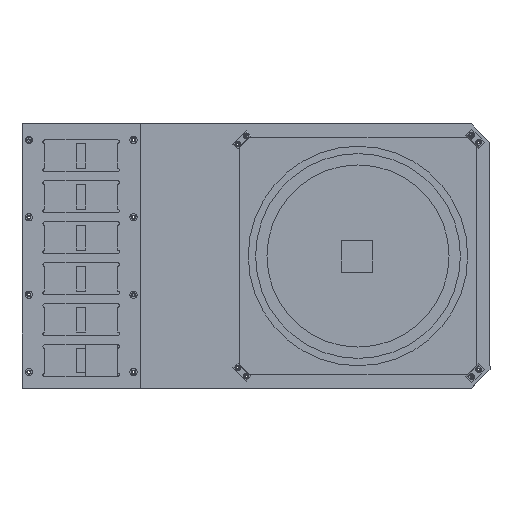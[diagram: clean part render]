
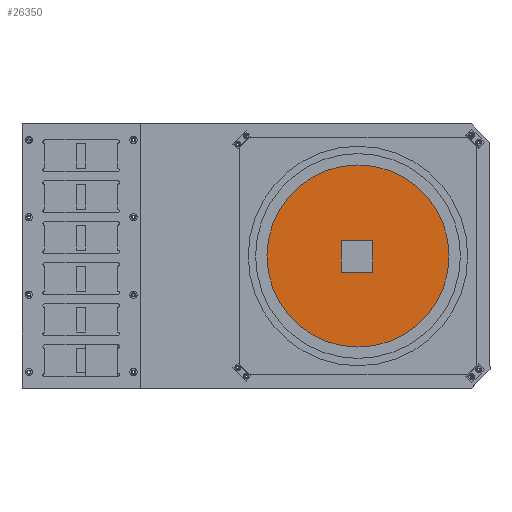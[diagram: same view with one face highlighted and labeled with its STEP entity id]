
A CAD part, top view. The second image highlights one B-rep face of the part: STEP entity #26350.
In plain terms, the highlighted planar face has unit normal (0, 0, 1).
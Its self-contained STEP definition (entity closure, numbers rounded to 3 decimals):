
#666 = ORIENTED_EDGE ( 'NONE', *, *, #22721, .F. ) ;
#668 = ORIENTED_EDGE ( 'NONE', *, *, #23356, .T. ) ;
#688 = CARTESIAN_POINT ( 'NONE',  ( 305.385, 173.561, 976.8 ) ) ;
#1020 = LINE ( 'NONE', #5673, #24374 ) ;
#1689 = CARTESIAN_POINT ( 'NONE',  ( 289.018, 255.625, 976.8 ) ) ;
#1853 = DIRECTION ( 'NONE',  ( 0., -1., 0. ) ) ;
#2101 = CARTESIAN_POINT ( 'NONE',  ( 305.385, 373.561, 976.8 ) ) ;
#2233 = EDGE_LOOP ( 'NONE', ( #12767, #666 ) ) ;
#2315 = CIRCLE ( 'NONE', #19268, 100. ) ;
#3492 = VERTEX_POINT ( 'NONE', #11764 ) ;
#3720 = DIRECTION ( 'NONE',  ( 0., -1., 0. ) ) ;
#4207 = PLANE ( 'NONE',  #26924 ) ;
#5447 = VERTEX_POINT ( 'NONE', #7216 ) ;
#5673 = CARTESIAN_POINT ( 'NONE',  ( 324.018, 292.375, 976.8 ) ) ;
#6439 = CARTESIAN_POINT ( 'NONE',  ( 288.143, 291.5, 976.8 ) ) ;
#7216 = CARTESIAN_POINT ( 'NONE',  ( 289.018, 291.5, 976.8 ) ) ;
#8642 = DIRECTION ( 'NONE',  ( 0., 0., -1. ) ) ;
#9291 = CARTESIAN_POINT ( 'NONE',  ( 305.385, 273.561, 976.8 ) ) ;
#10829 = EDGE_LOOP ( 'NONE', ( #24729, #668, #28076, #13346 ) ) ;
#11297 = VERTEX_POINT ( 'NONE', #688 ) ;
#11626 = DIRECTION ( 'NONE',  ( 0., -1., 0. ) ) ;
#11764 = CARTESIAN_POINT ( 'NONE',  ( 324.018, 291.5, 976.8 ) ) ;
#12456 = VECTOR ( 'NONE', #24600, 1000. ) ;
#12767 = ORIENTED_EDGE ( 'NONE', *, *, #13651, .F. ) ;
#13214 = CARTESIAN_POINT ( 'NONE',  ( 200.385, 168.561, 976.8 ) ) ;
#13346 = ORIENTED_EDGE ( 'NONE', *, *, #13502, .T. ) ;
#13366 = AXIS2_PLACEMENT_3D ( 'NONE', #9291, #25661, #11626 ) ;
#13502 = EDGE_CURVE ( 'NONE', #23074, #5447, #25635, .T. ) ;
#13651 = EDGE_CURVE ( 'NONE', #11297, #15259, #15026, .T. ) ;
#15011 = EDGE_CURVE ( 'NONE', #18103, #23074, #29117, .T. ) ;
#15026 = CIRCLE ( 'NONE', #13366, 100. ) ;
#15259 = VERTEX_POINT ( 'NONE', #2101 ) ;
#15753 = DIRECTION ( 'NONE',  ( 0., 1., 0. ) ) ;
#17486 = CARTESIAN_POINT ( 'NONE',  ( 324.893, 256.5, 976.8 ) ) ;
#17984 = DIRECTION ( 'NONE',  ( 0., 0., 1. ) ) ;
#18027 = CARTESIAN_POINT ( 'NONE',  ( 305.385, 273.561, 976.8 ) ) ;
#18081 = DIRECTION ( 'NONE',  ( 0., -1., 0. ) ) ;
#18103 = VERTEX_POINT ( 'NONE', #28679 ) ;
#18735 = FACE_OUTER_BOUND ( 'NONE', #2233, .T. ) ;
#19038 = CARTESIAN_POINT ( 'NONE',  ( 289.018, 256.5, 976.8 ) ) ;
#19268 = AXIS2_PLACEMENT_3D ( 'NONE', #18027, #8642, #1853 ) ;
#20108 = LINE ( 'NONE', #6439, #12456 ) ;
#20494 = VECTOR ( 'NONE', #15753, 1000. ) ;
#20649 = VECTOR ( 'NONE', #28952, 1000. ) ;
#22721 = EDGE_CURVE ( 'NONE', #15259, #11297, #2315, .T. ) ;
#23074 = VERTEX_POINT ( 'NONE', #19038 ) ;
#23356 = EDGE_CURVE ( 'NONE', #3492, #18103, #1020, .T. ) ;
#23486 = FACE_BOUND ( 'NONE', #10829, .T. ) ;
#24374 = VECTOR ( 'NONE', #3720, 1000. ) ;
#24600 = DIRECTION ( 'NONE',  ( 1., 0., 0. ) ) ;
#24729 = ORIENTED_EDGE ( 'NONE', *, *, #29239, .T. ) ;
#25635 = LINE ( 'NONE', #1689, #20494 ) ;
#25661 = DIRECTION ( 'NONE',  ( 0., 0., -1. ) ) ;
#26350 = ADVANCED_FACE ( 'N', ( #23486, #18735 ), #4207, .T. ) ;
#26924 = AXIS2_PLACEMENT_3D ( 'NONE', #13214, #17984, #18081 ) ;
#28076 = ORIENTED_EDGE ( 'NONE', *, *, #15011, .T. ) ;
#28679 = CARTESIAN_POINT ( 'NONE',  ( 324.018, 256.5, 976.8 ) ) ;
#28952 = DIRECTION ( 'NONE',  ( -1., 0., 0. ) ) ;
#29117 = LINE ( 'NONE', #17486, #20649 ) ;
#29239 = EDGE_CURVE ( 'NONE', #5447, #3492, #20108, .T. ) ;
